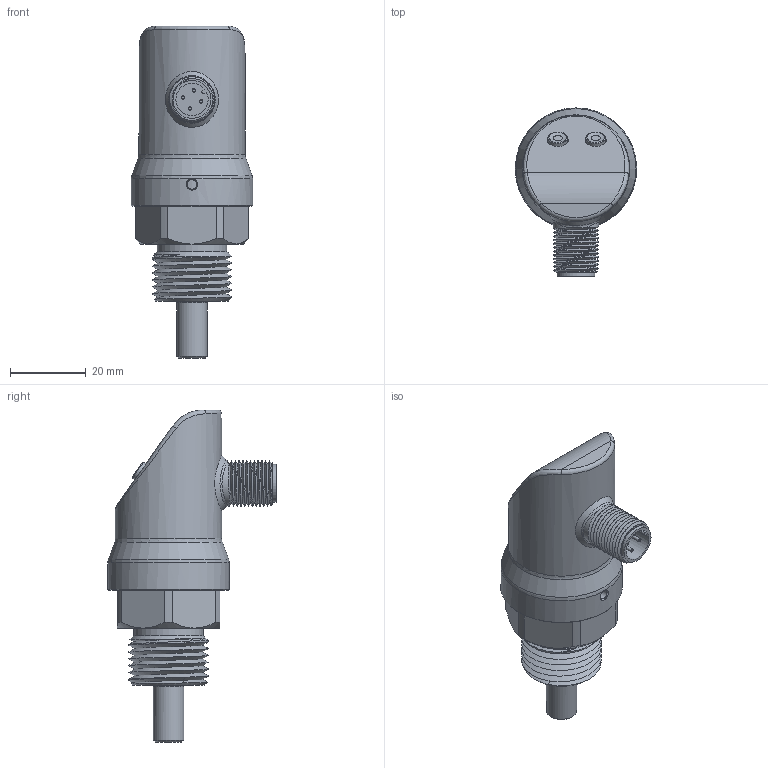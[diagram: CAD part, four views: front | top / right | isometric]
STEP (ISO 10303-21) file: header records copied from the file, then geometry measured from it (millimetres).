
FILE_DESCRIPTION( (''), '2;1');
FILE_NAME( 'QSKE_G1-2_L30_L30MM.step', '2026-03-26T14:23:49+08:00', (''), (''), '', '', '');
FILE_SCHEMA (('AUTOMOTIVE_DESIGN { 1 0 10303 214 3 1 1 1 }'));
Length unit declared in the file: millimetre
Products named in the file (1): QSKE G1-2_L30_L30MM
Bounding box: 32 x 44.35 x 87.5 mm (x, y, z)
Volume: 25216 mm3; surface area: 16006.7 mm2
Topology: 9 solids, 9 shells, 228 faces, 560 edges, 367 vertices
Faces by surface type: plane 101, cylinder 51, cone 31, torus 24, bspline 19, extrusion 2
Full cylindrical faces by diameter (mm): 0.9 x8, 2 x4, 2.5 x1, 5.2 x2, 5.6 x2, 8 x1, 9.8 x2, 10 x1, 18.4 x1, 27 x1, 28 x1, 32 x1
Entity records: 10006 total; most frequent: CARTESIAN_POINT 4995, DIRECTION 972, ORIENTED_EDGE 940, EDGE_CURVE 470, AXIS2_PLACEMENT_3D 395, VERTEX_POINT 336, EDGE_LOOP 312, ADVANCED_FACE 228
